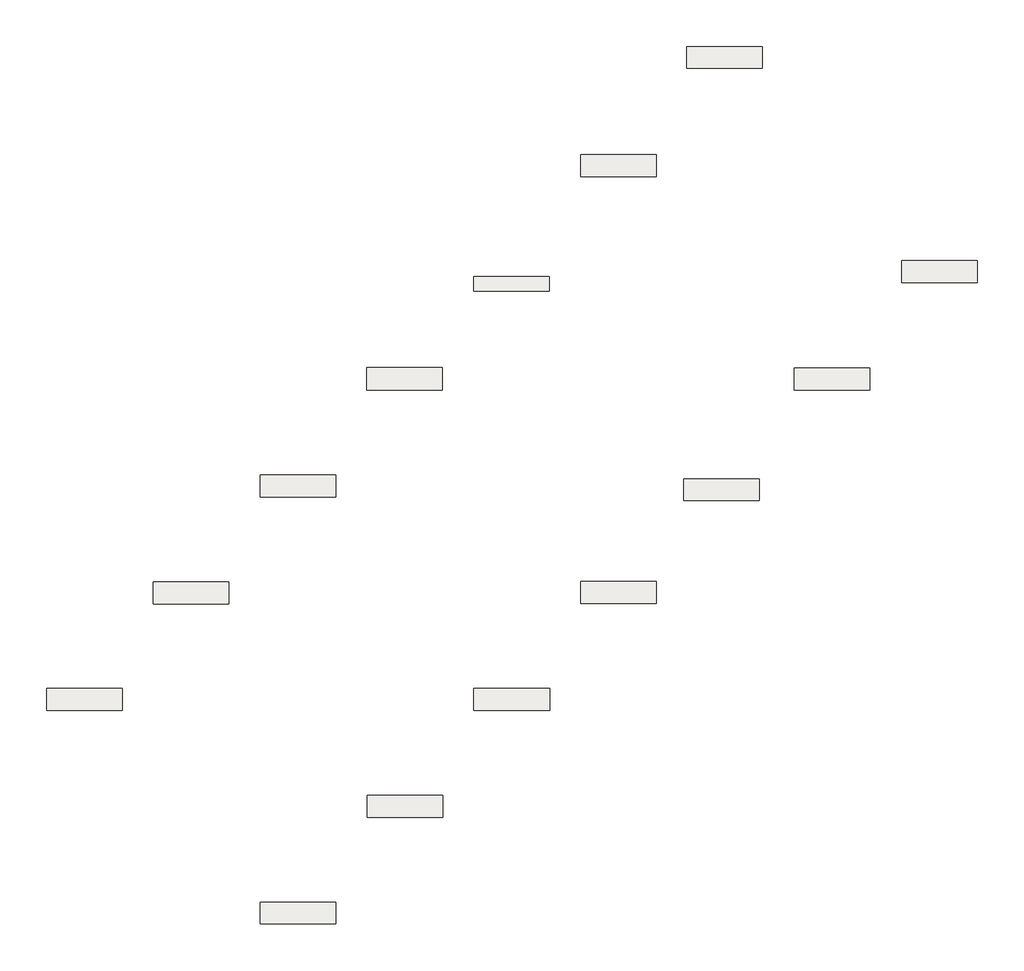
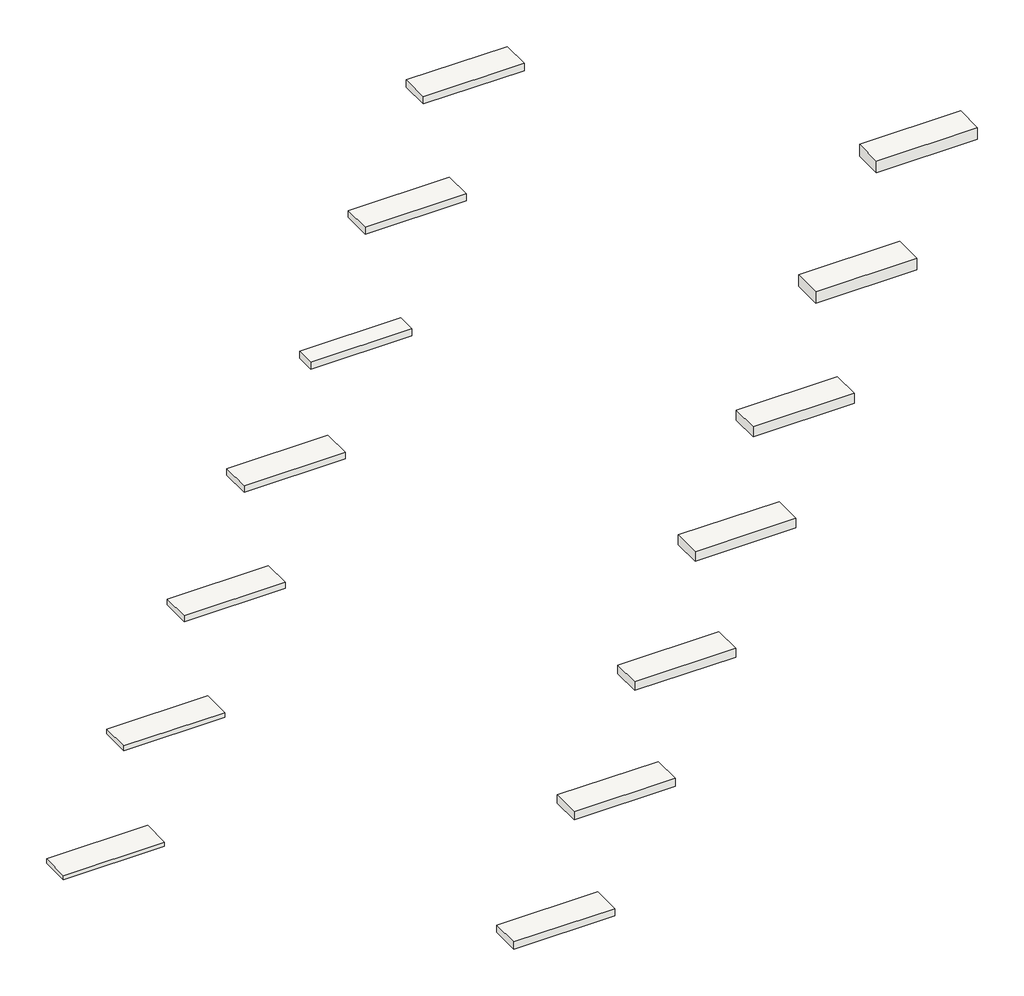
# One storey: 14 roofs.
"""IFC4 building model written with IfcOpenShell, lengths in millimetres."""

from ifc_helpers import new_model, si_unit, frame, origin, place, context, project, spatial, polyline, outline, extrude, element, save

model = new_model("IFC4")

# Units and contexts
model_context = context("Model", 3, world=origin())
ifc_project = project(units=[si_unit("LENGTHUNIT", "METRE", prefix="MILLI")], contexts=[model_context])

# Site, building, storey
site = spatial("IfcSite", under=ifc_project)
building = spatial("IfcBuilding", under=site)
storey = spatial("IfcBuildingStorey", under=building, Name="Lengte", Elevation=2000.0)

# Roofs
placement = place(None, origin())
element("IfcRoof", 1, ObjectType="NLRS_27_RO_Naturoll 032_90x580x3500mm", at=placement, inside=storey, context=model_context, shape_type="SweptSolid", body=[
    extrude(outline(polyline([(-4500.3350736, -5958.5333978), (-2500.3350736, -5958.5333978), (-2500.3350736, -6538.5333978), (-4500.3350736, -6538.5333978), (-4500.3350736, -5958.5333978)])), frame((0.0, 0.0, 2000.0), z_axis=(0.0, 0.0, 1.0), x_axis=(1.0, 0.0, 0.0)), (0.0, 0.0, 1.0), 90.0),
])
element("IfcRoof", 2, ObjectType="NLRS_27_RO_Naturoll 032_100x580x2700mm", at=placement, inside=storey, context=model_context, shape_type="SweptSolid", body=[
    extrude(outline(polyline([(-1671.9079488, -3130.1062731), (328.0920512, -3130.1062731), (328.0920512, -3710.1062731), (-1671.9079488, -3710.1062731), (-1671.9079488, -3130.1062731)])), frame((0.0, 0.0, 2000.0), z_axis=(0.0, 0.0, 1.0), x_axis=(1.0, 0.0, 0.0)), (0.0, 0.0, 1.0), 100.0),
])
element("IfcRoof", 3, ObjectType="NLRS_27_RO_Naturoll 032_120x580x2700mm", at=placement, inside=storey, context=model_context, shape_type="SweptSolid", body=[
    extrude(outline(polyline([(1156.5191759, -301.6791483), (3156.5191759, -301.6791483), (3156.5191759, -881.6791483), (1156.5191759, -881.6791483), (1156.5191759, -301.6791483)])), frame((0.0, 0.0, 2000.0), z_axis=(0.0, 0.0, 1.0), x_axis=(1.0, 0.0, 0.0)), (0.0, 0.0, 1.0), 120.0),
])
element("IfcRoof", 4, ObjectType="NLRS_27_RO_Naturoll 032_135x590x2700mm", at=placement, inside=storey, context=model_context, shape_type="SweptSolid", body=[
    extrude(outline(polyline([(3984.9463006, 2546.7479764), (5984.9463006, 2546.7479764), (5984.9463006, 1956.7479764), (3984.9463006, 1956.7479764), (3984.9463006, 2546.7479764)])), frame((0.0, 0.0, 2000.0), z_axis=(0.0, 0.0, 1.0), x_axis=(1.0, 0.0, 0.0)), (0.0, 0.0, 1.0), 135.0),
])
element("IfcRoof", 5, ObjectType="NLRS_27_RO_Naturoll 032_140x380x2700mm", at=placement, inside=storey, context=model_context, shape_type="SweptSolid", body=[
    extrude(outline(polyline([(6813.3734254, 4955.1751012), (8813.3734254, 4955.1751012), (8813.3734254, 4575.1751012), (6813.3734254, 4575.1751012), (6813.3734254, 4955.1751012)])), frame((0.0, 0.0, 2000.0), z_axis=(0.0, 0.0, 1.0), x_axis=(1.0, 0.0, 0.0)), (0.0, 0.0, 1.0), 140.0),
])
element("IfcRoof", 6, ObjectType="NLRS_27_RO_Naturoll 032_140x580x2700mm", at=placement, inside=storey, context=model_context, shape_type="SweptSolid", body=[
    extrude(outline(polyline([(9641.8005501, 8183.6022259), (11641.8005501, 8183.6022259), (11641.8005501, 7603.6022259), (9641.8005501, 7603.6022259), (9641.8005501, 8183.6022259)])), frame((0.0, 0.0, 2000.0), z_axis=(0.0, 0.0, 1.0), x_axis=(1.0, 0.0, 0.0)), (0.0, 0.0, 1.0), 140.0),
])
element("IfcRoof", 7, ObjectType="NLRS_27_RO_Naturoll 032_150x590x2700mm", at=placement, inside=storey, context=model_context, shape_type="SweptSolid", body=[
    extrude(outline(polyline([(1156.5191759, -11615.3876473), (3156.5191759, -11615.3876473), (3156.5191759, -12195.3876473), (1156.5191759, -12195.3876473), (1156.5191759, -11615.3876473)])), frame((0.0, 0.0, 2000.0), z_axis=(0.0, 0.0, 1.0), x_axis=(1.0, 0.0, 0.0)), (0.0, 0.0, 1.0), 150.0),
])
element("IfcRoof", 8, ObjectType="NLRS_27_RO_Naturoll 032_170x580x3500mm", at=placement, inside=storey, context=model_context, shape_type="SweptSolid", body=[
    extrude(outline(polyline([(3986.6811856, -8785.2256376), (5986.6811856, -8785.2256376), (5986.6811856, -9365.2256376), (3986.6811856, -9365.2256376), (3986.6811856, -8785.2256376)])), frame((0.0, 0.0, 2000.0), z_axis=(0.0, 0.0, 1.0), x_axis=(1.0, 0.0, 0.0)), (0.0, 0.0, 1.0), 170.0),
])
element("IfcRoof", 9, ObjectType="NLRS_27_RO_Naturoll 032_180x580x2200mm", at=placement, inside=storey, context=model_context, shape_type="SweptSolid", body=[
    extrude(outline(polyline([(6820.0893075, -5951.8175157), (8820.0893075, -5951.8175157), (8820.0893075, -6531.8175157), (6820.0893075, -6531.8175157), (6820.0893075, -5951.8175157)])), frame((0.0, 0.0, 2000.0), z_axis=(0.0, 0.0, 1.0), x_axis=(1.0, 0.0, 0.0)), (0.0, 0.0, 1.0), 180.0),
])
element("IfcRoof", 10, ObjectType="NLRS_27_RO_Naturoll 032_200x580x2000mm", at=placement, inside=storey, context=model_context, shape_type="SweptSolid", body=[
    extrude(outline(polyline([(9648.733786, -3123.1730372), (11648.733786, -3123.1730372), (11648.733786, -3703.1730372), (9648.733786, -3703.1730372), (9648.733786, -3123.1730372)])), frame((0.0, 0.0, 2000.0), z_axis=(0.0, 0.0, 1.0), x_axis=(1.0, 0.0, 0.0)), (0.0, 0.0, 1.0), 200.0),
])
element("IfcRoof", 11, ObjectType="NLRS_27_RO_Naturoll 032_210x580x2600mm", at=placement, inside=storey, context=model_context, shape_type="SweptSolid", body=[
    extrude(outline(polyline([(12372.9430839, -398.9637393), (14372.9430839, -398.9637393), (14372.9430839, -978.9637393), (12372.9430839, -978.9637393), (12372.9430839, -398.9637393)])), frame((0.0, 0.0, 2000.0), z_axis=(0.0, 0.0, 1.0), x_axis=(1.0, 0.0, 0.0)), (0.0, 0.0, 1.0), 210.0),
])
element("IfcRoof", 12, ObjectType="NLRS_27_RO_Naturoll 032_150x580x2700mm", at=placement, inside=storey, context=model_context, shape_type="SweptSolid", body=[
    extrude(outline(polyline([(12451.8107776, 11055.7049126), (14451.8107776, 11055.7049126), (14451.8107776, 10475.7049126), (12451.8107776, 10475.7049126), (12451.8107776, 11055.7049126)])), frame((0.0, 0.0, 2000.0), z_axis=(0.0, 0.0, 1.0), x_axis=(1.0, 0.0, 0.0)), (0.0, 0.0, 1.0), 150.0),
])
element("IfcRoof", 13, ObjectType="NLRS_27_RO_Naturoll 032_245x580x2000mm", at=placement, inside=storey, context=model_context, shape_type="SweptSolid", body=[
    extrude(outline(polyline([(18154.1249058, 5382.2180827), (20154.1249058, 5382.2180827), (20154.1249058, 4802.2180827), (18154.1249058, 4802.2180827), (18154.1249058, 5382.2180827)])), frame((0.0, 0.0, 2000.0), z_axis=(0.0, 0.0, 1.0), x_axis=(1.0, 0.0, 0.0)), (0.0, 0.0, 1.0), 245.0),
])
element("IfcRoof", 14, ObjectType="NLRS_27_RO_Naturoll 032_240x580x2300mm", at=placement, inside=storey, context=model_context, shape_type="SweptSolid", body=[
    extrude(outline(polyline([(15300.9053054, 2528.9984822), (17300.9053054, 2528.9984822), (17300.9053054, 1948.9984822), (15300.9053054, 1948.9984822), (15300.9053054, 2528.9984822)])), frame((0.0, 0.0, 2000.0), z_axis=(0.0, 0.0, 1.0), x_axis=(1.0, 0.0, 0.0)), (0.0, 0.0, 1.0), 240.0),
])

save(model, "model.ifc")
